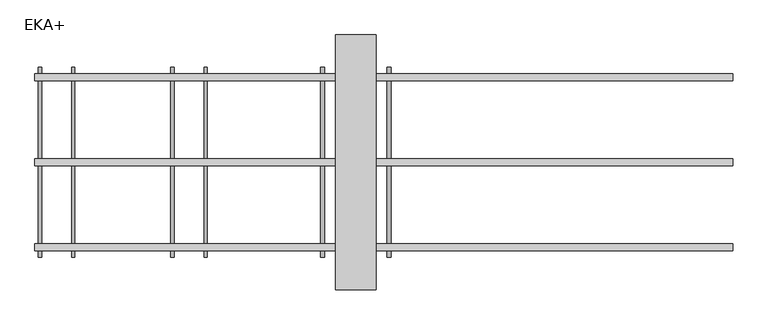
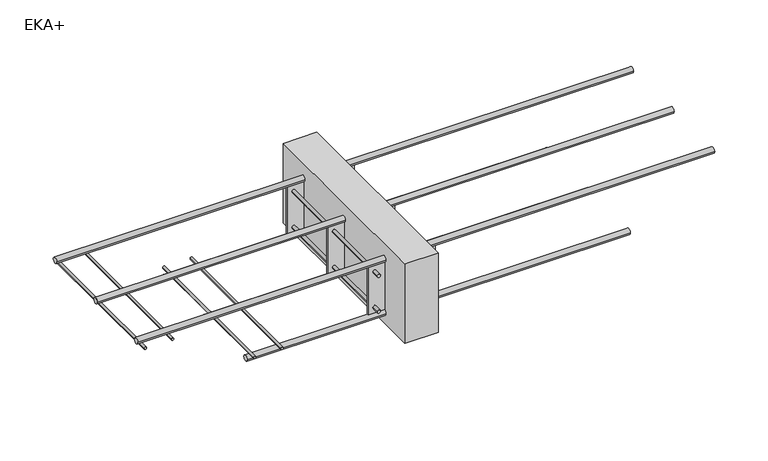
"""IFC4 building model written with IfcOpenShell, lengths in millimetres: fastener geometry, ACINOXplus_Typenreihe_EK : EKA+."""

from ifc_helpers import new_model, si_unit, point, frame, frame_2d, origin, place, context, project, spatial, polyline, circle_curve, trimmed, segment, composite_curve, outline, extrude, source, transform, mapped, element, save


def eka_20f301c2(model_context):
    return source(origin(), model_context, "Body", "SweptSolid", [
        extrude(outline(polyline([(40.0, 250.0), (40.0, -250.0), (-40.0, -250.0), (-40.0, 250.0), (40.0, 250.0)])), frame((0.0, 0.0, -200.0), z_axis=(0.0, 0.0, 1.0), x_axis=(1.0, 0.0, 0.0)), (0.0, 0.0, 1.0), 200.0),
        extrude(outline(polyline([(80.0, 1.5), (80.0, -1.5), (-80.0, -1.5), (-80.0, 1.5), (80.0, 1.5)])), frame((0.0, 0.0, -164.0), z_axis=(0.0, 0.0, 1.0), x_axis=(1.0, 0.0, 0.0)), (0.0, 0.0, 1.0), 120.0),
        extrude(outline(polyline([(80.0, -165.1666667), (80.0, -168.1666667), (-80.0, -168.1666667), (-80.0, -165.1666667), (80.0, -165.1666667)])), frame((0.0, 0.0, -164.0), z_axis=(0.0, 0.0, 1.0), x_axis=(1.0, 0.0, 0.0)), (0.0, 0.0, 1.0), 120.0),
        extrude(outline(polyline([(80.0, 168.1666667), (80.0, 165.1666667), (-80.0, 165.1666667), (-80.0, 168.1666667), (80.0, 168.1666667)])), frame((0.0, 0.0, -164.0), z_axis=(0.0, 0.0, 1.0), x_axis=(1.0, 0.0, 0.0)), (0.0, 0.0, 1.0), 120.0),
        extrude(outline(composite_curve([segment(trimmed(circle_curve(frame_2d((-149.0, -65.0)), 4.0), [point((-149.0, -61.0))], [point((-149.0, -69.0))], False, "CARTESIAN"), True, "CONTINUOUS"), segment(trimmed(circle_curve(frame_2d((-149.0, -65.0)), 4.0), [point((-149.0, -69.0))], [point((-149.0, -61.0))], False, "CARTESIAN"), True, "CONTINUOUS")], self_intersect=False)), frame((0.0, -186.6666667, 0.0), z_axis=(0.0, 1.0, 0.0), x_axis=(0.0, 0.0, 1.0)), (0.0, 0.0, 1.0), 373.3333333),
        extrude(outline(composite_curve([segment(trimmed(circle_curve(frame_2d((-149.0, 65.0)), 4.0), [point((-149.0, 69.0))], [point((-149.0, 61.0))], False, "CARTESIAN"), True, "CONTINUOUS"), segment(trimmed(circle_curve(frame_2d((-149.0, 65.0)), 4.0), [point((-149.0, 61.0))], [point((-149.0, 69.0))], False, "CARTESIAN"), True, "CONTINUOUS")], self_intersect=False)), frame((0.0, -186.6666667, 0.0), z_axis=(0.0, 1.0, 0.0), x_axis=(0.0, 0.0, 1.0)), (0.0, 0.0, 1.0), 373.3333333),
        extrude(outline(composite_curve([segment(trimmed(circle_curve(frame_2d((-59.0, -65.0)), 4.0), [point((-59.0, -61.0))], [point((-59.0, -69.0))], False, "CARTESIAN"), True, "CONTINUOUS"), segment(trimmed(circle_curve(frame_2d((-59.0, -65.0)), 4.0), [point((-59.0, -69.0))], [point((-59.0, -61.0))], False, "CARTESIAN"), True, "CONTINUOUS")], self_intersect=False)), frame((0.0, -186.6666667, 0.0), z_axis=(0.0, 1.0, 0.0), x_axis=(0.0, 0.0, 1.0)), (0.0, 0.0, 1.0), 373.3333333),
        extrude(outline(composite_curve([segment(trimmed(circle_curve(frame_2d((-59.0, 65.0)), 4.0), [point((-59.0, 69.0))], [point((-59.0, 61.0))], False, "CARTESIAN"), True, "CONTINUOUS"), segment(trimmed(circle_curve(frame_2d((-59.0, 65.0)), 4.0), [point((-59.0, 61.0))], [point((-59.0, 69.0))], False, "CARTESIAN"), True, "CONTINUOUS")], self_intersect=False)), frame((0.0, -186.6666667, 0.0), z_axis=(0.0, 1.0, 0.0), x_axis=(0.0, 0.0, 1.0)), (0.0, 0.0, 1.0), 373.3333333),
        extrude(outline(composite_curve([segment(trimmed(circle_curve(frame_2d((0.0, -171.0)), 7.0), [point((-7.0, -171.0))], [point((7.0, -171.0))], False, "CARTESIAN"), True, "CONTINUOUS"), segment(trimmed(circle_curve(frame_2d((0.0, -171.0)), 7.0), [point((7.0, -171.0))], [point((-7.0, -171.0))], False, "CARTESIAN"), True, "CONTINUOUS")], self_intersect=False)), frame((-370.0, 0.0, 0.0), z_axis=(1.0, 0.0, 0.0), x_axis=(0.0, 1.0, 0.0)), (0.0, 0.0, 1.0), 910.0),
        extrude(outline(composite_curve([segment(trimmed(circle_curve(frame_2d((166.6666667, -171.0)), 7.0), [point((159.6666667, -171.0))], [point((173.6666667, -171.0))], False, "CARTESIAN"), True, "CONTINUOUS"), segment(trimmed(circle_curve(frame_2d((166.6666667, -171.0)), 7.0), [point((173.6666667, -171.0))], [point((159.6666667, -171.0))], False, "CARTESIAN"), True, "CONTINUOUS")], self_intersect=False)), frame((-370.0, 0.0, 0.0), z_axis=(1.0, 0.0, 0.0), x_axis=(0.0, 1.0, 0.0)), (0.0, 0.0, 1.0), 910.0),
        extrude(outline(composite_curve([segment(trimmed(circle_curve(frame_2d((-166.6666667, -171.0)), 7.0), [point((-173.6666667, -171.0))], [point((-159.6666667, -171.0))], False, "CARTESIAN"), True, "CONTINUOUS"), segment(trimmed(circle_curve(frame_2d((-166.6666667, -171.0)), 7.0), [point((-159.6666667, -171.0))], [point((-173.6666667, -171.0))], False, "CARTESIAN"), True, "CONTINUOUS")], self_intersect=False)), frame((-370.0, 0.0, 0.0), z_axis=(1.0, 0.0, 0.0), x_axis=(0.0, 1.0, 0.0)), (0.0, 0.0, 1.0), 910.0),
        extrude(outline(composite_curve([segment(trimmed(circle_curve(frame_2d((0.0, -37.0)), 7.0), [point((-7.0, -37.0))], [point((7.0, -37.0))], False, "CARTESIAN"), True, "CONTINUOUS"), segment(trimmed(circle_curve(frame_2d((0.0, -37.0)), 7.0), [point((7.0, -37.0))], [point((-7.0, -37.0))], False, "CARTESIAN"), True, "CONTINUOUS")], self_intersect=False)), frame((-630.0, 0.0, 0.0), z_axis=(1.0, 0.0, 0.0), x_axis=(0.0, 1.0, 0.0)), (0.0, 0.0, 1.0), 1370.0),
        extrude(outline(composite_curve([segment(trimmed(circle_curve(frame_2d((166.6666667, -37.0)), 7.0), [point((159.6666667, -37.0))], [point((173.6666667, -37.0))], False, "CARTESIAN"), True, "CONTINUOUS"), segment(trimmed(circle_curve(frame_2d((166.6666667, -37.0)), 7.0), [point((173.6666667, -37.0))], [point((159.6666667, -37.0))], False, "CARTESIAN"), True, "CONTINUOUS")], self_intersect=False)), frame((-630.0, 0.0, 0.0), z_axis=(1.0, 0.0, 0.0), x_axis=(0.0, 1.0, 0.0)), (0.0, 0.0, 1.0), 1370.0),
        extrude(outline(composite_curve([segment(trimmed(circle_curve(frame_2d((-166.6666667, -37.0)), 7.0), [point((-173.6666667, -37.0))], [point((-159.6666667, -37.0))], False, "CARTESIAN"), True, "CONTINUOUS"), segment(trimmed(circle_curve(frame_2d((-166.6666667, -37.0)), 7.0), [point((-159.6666667, -37.0))], [point((-173.6666667, -37.0))], False, "CARTESIAN"), True, "CONTINUOUS")], self_intersect=False)), frame((-630.0, 0.0, 0.0), z_axis=(1.0, 0.0, 0.0), x_axis=(0.0, 1.0, 0.0)), (0.0, 0.0, 1.0), 1370.0),
        extrude(outline(composite_curve([segment(trimmed(circle_curve(frame_2d((-161.0, -360.0)), 3.0), [point((-161.0, -357.0))], [point((-161.0, -363.0))], False, "CARTESIAN"), True, "CONTINUOUS"), segment(trimmed(circle_curve(frame_2d((-161.0, -360.0)), 3.0), [point((-161.0, -363.0))], [point((-161.0, -357.0))], False, "CARTESIAN"), True, "CONTINUOUS")], self_intersect=False)), frame((0.0, -186.6666667, 0.0), z_axis=(0.0, 1.0, 0.0), x_axis=(0.0, 0.0, 1.0)), (0.0, 0.0, 1.0), 373.3333333),
        extrude(outline(composite_curve([segment(trimmed(circle_curve(frame_2d((-161.0, -295.0)), 3.0), [point((-161.0, -292.0))], [point((-161.0, -298.0))], False, "CARTESIAN"), True, "CONTINUOUS"), segment(trimmed(circle_curve(frame_2d((-161.0, -295.0)), 3.0), [point((-161.0, -298.0))], [point((-161.0, -292.0))], False, "CARTESIAN"), True, "CONTINUOUS")], self_intersect=False)), frame((0.0, -186.6666667, 0.0), z_axis=(0.0, 1.0, 0.0), x_axis=(0.0, 0.0, 1.0)), (0.0, 0.0, 1.0), 373.3333333),
        extrude(outline(composite_curve([segment(trimmed(circle_curve(frame_2d((-47.0, -620.0)), 3.0), [point((-47.0, -617.0))], [point((-47.0, -623.0))], False, "CARTESIAN"), True, "CONTINUOUS"), segment(trimmed(circle_curve(frame_2d((-47.0, -620.0)), 3.0), [point((-47.0, -623.0))], [point((-47.0, -617.0))], False, "CARTESIAN"), True, "CONTINUOUS")], self_intersect=False)), frame((0.0, -186.6666667, 0.0), z_axis=(0.0, 1.0, 0.0), x_axis=(0.0, 0.0, 1.0)), (0.0, 0.0, 1.0), 373.3333333),
        extrude(outline(composite_curve([segment(trimmed(circle_curve(frame_2d((-47.0, -555.0)), 3.0), [point((-47.0, -552.0))], [point((-47.0, -558.0))], False, "CARTESIAN"), True, "CONTINUOUS"), segment(trimmed(circle_curve(frame_2d((-47.0, -555.0)), 3.0), [point((-47.0, -558.0))], [point((-47.0, -552.0))], False, "CARTESIAN"), True, "CONTINUOUS")], self_intersect=False)), frame((0.0, -186.6666667, 0.0), z_axis=(0.0, 1.0, 0.0), x_axis=(0.0, 0.0, 1.0)), (0.0, 0.0, 1.0), 373.3333333),
    ])


if __name__ == "__main__":
    model = new_model("IFC4")
    model_context = context("Model", 3, world=origin())
    ifc_project = project(units=[si_unit("LENGTHUNIT", "METRE", prefix="MILLI")], contexts=[model_context])
    site = spatial("IfcSite", under=ifc_project)
    building = spatial("IfcBuilding", under=site)
    placement = place(None, origin())
    eka_shape = eka_20f301c2(model_context)
    element("IfcFastener", 1, ObjectType="ACINOXplus_Typenreihe_EK : EKA+", at=placement, inside=building, context=model_context, shape_type="MappedRepresentation", body=[
        mapped(eka_shape, transform((0.0, 0.0, 0.0), x_axis=(1.0, 0.0, 0.0), y_axis=(0.0, 1.0, 0.0), z_axis=(0.0, 0.0, 1.0))),
    ])
    save(model, "model.ifc")
